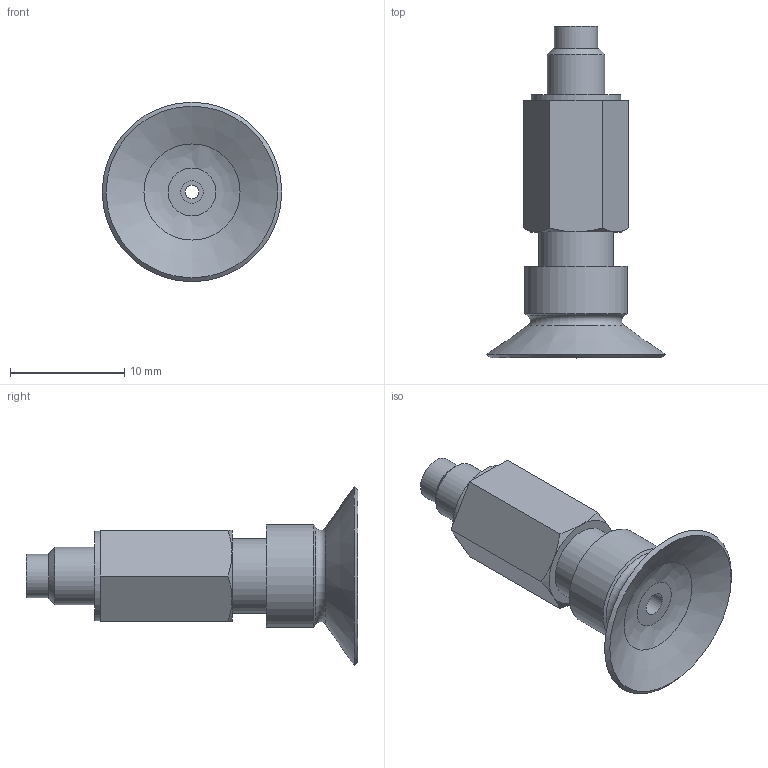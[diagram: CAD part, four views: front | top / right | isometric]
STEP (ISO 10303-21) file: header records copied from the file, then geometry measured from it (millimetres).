
FILE_DESCRIPTION(('STEP AP203'),'1');
FILE_NAME('.stp','2025-04-07T02:50:17',(' '),(' '),'Spatial InterOp 3D',' ',' ');
FILE_SCHEMA(('CONFIG_CONTROL_DESIGN'));
Length unit declared in the file: millimetre
Products named in the file (4): BPSS-L3-BPFG-15A-※; BPSS-7-L3-M; BPSS-7-L3-F; BPFG-15A-※
Assembly tree (3 placements, depth 2):
  BPSS-L3-BPFG-15A-※
    BPSS-7-L3-M
    BPSS-7-L3-F
    BPFG-15A-※
Bounding box: 15.7 x 29 x 15.7 mm (x, y, z)
Volume: 1213.9 mm3; surface area: 1943.5 mm2
Topology: 3 solids, 3 shells, 55 faces, 103 edges, 64 vertices
Faces by surface type: plane 22, cylinder 15, cone 11, torus 6, bspline 1
Full cylindrical faces by diameter (mm): 1.2 x1, 2 x1, 2.4 x2, 3.4 x1, 3.8 x1, 4 x2, 5 x1, 6 x2, 6.5 x2, 7.8 x1, 9 x1
Entity records: 1437 total; most frequent: CARTESIAN_POINT 242, DIRECTION 224, ORIENTED_EDGE 144, AXIS2_PLACEMENT_3D 106, EDGE_LOOP 98, FACE_OUTER_BOUND 77, EDGE_CURVE 72, VERTEX_POINT 60
